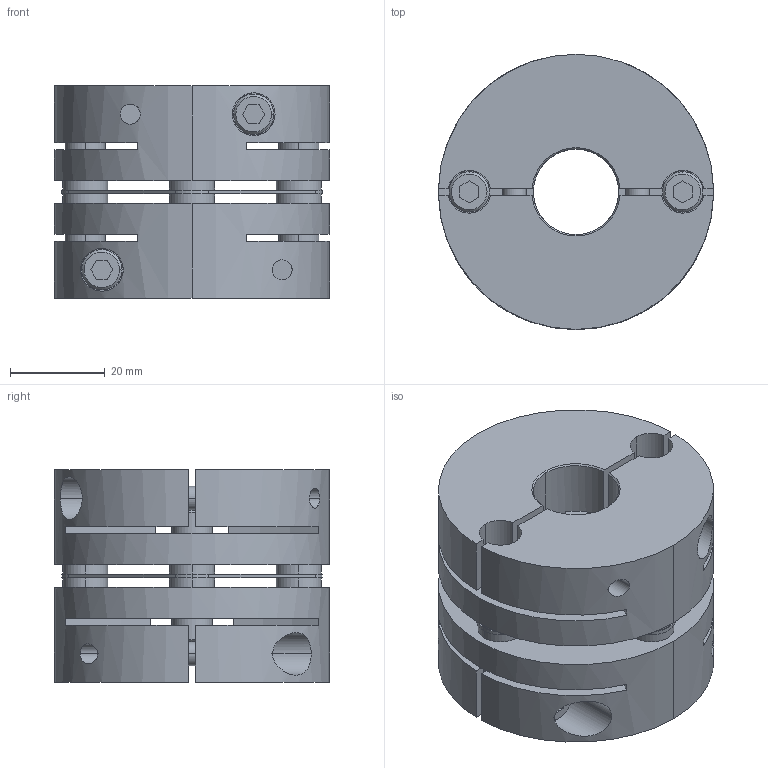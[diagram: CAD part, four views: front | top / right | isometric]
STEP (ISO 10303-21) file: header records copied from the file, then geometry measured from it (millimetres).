
FILE_DESCRIPTION((''),'2;1');
FILE_NAME('LAS-58C-18×20.stp','2015-10-15T14:53:28',(''),(''),'AutoCAD STEP 2000i','AutoCAD 2000i',', , ');
FILE_SCHEMA(('CONFIG_CONTROL_DESIGN'));
Length unit declared in the file: millimetre
Products named in the file (6): LAS-58C-12×19; 忣兜1; LA-5802-D19; LA-5802-D12-1; LA-5802-D12; LAS58-ITA
Assembly tree (5 placements, depth 2):
  LAS-58C-12×19
    忣兜1
    LA-5802-D19
    LA-5802-D12-1
    LA-5802-D12
    LAS58-ITA
Bounding box: 58 x 58 x 44.8 mm (x, y, z)
Volume: 85215.4 mm3; surface area: 33088.1 mm2
Topology: 1 solids, 1 shells, 238 faces, 618 edges, 404 vertices
Faces by surface type: plane 114, cylinder 96, cone 28
Entity records: 8213 total; most frequent: CARTESIAN_POINT 1988, DIRECTION 1316, ORIENTED_EDGE 1240, EDGE_CURVE 620, AXIS2_PLACEMENT_3D 484, VERTEX_POINT 404, VECTOR 348, LINE 348
